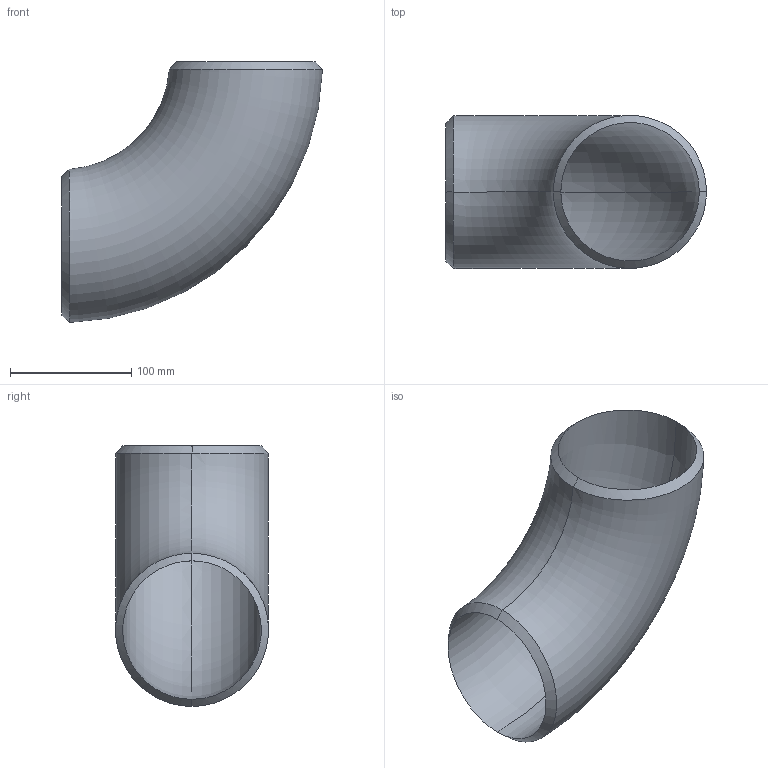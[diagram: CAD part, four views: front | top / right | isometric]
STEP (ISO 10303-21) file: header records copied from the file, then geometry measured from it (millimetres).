
FILE_DESCRIPTION (( 'STEP AP203' ), '1' );
FILE_NAME ('3D_R2651_4X40S_173421210_173425220.STEP', '2024-08-22T09:06:13', ( '' ), ( '' ), 'SwSTEP 2.0', 'SolidWorks 2024', '' );
FILE_SCHEMA (( 'CONFIG_CONTROL_DESIGN' ));
Length unit declared in the file: millimetre
Products named in the file (1): 3D_R2651_4X40S_173421210_173425220
Bounding box: 215.46 x 126.13 x 215.46 mm (x, y, z)
Volume: 520530.5 mm3; surface area: 181935.9 mm2
Topology: 1 solids, 1 shells, 10 faces, 26 edges, 16 vertices
Faces by surface type: bspline 4, torus 4, plane 2
Entity records: 3573 total; most frequent: CARTESIAN_POINT 3287, ORIENTED_EDGE 52, DIRECTION 30, EDGE_CURVE 26, B_SPLINE_CURVE_WITH_KNOTS 18, VERTEX_POINT 16, AXIS2_PLACEMENT_3D 15, FACE_OUTER_BOUND 10
